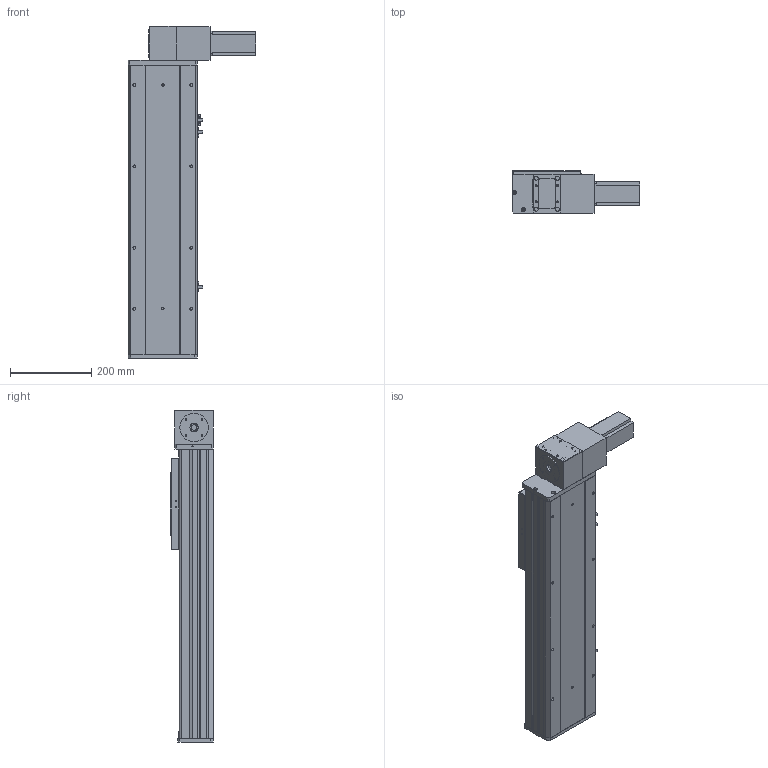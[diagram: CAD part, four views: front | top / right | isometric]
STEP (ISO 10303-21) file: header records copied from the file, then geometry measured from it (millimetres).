
FILE_DESCRIPTION (( 'STEP AP203' ), '1' );
FILE_NAME ('Y170CB-D105-S400-BD-P400W.STEP', '2020-02-20T08:14:38', ( '微软用户' ), ( '微软中国' ), 'SwSTEP 2.0', 'SolidWorks 2017', '' );
FILE_SCHEMA (( 'CONFIG_CONTROL_DESIGN' ));
Length unit declared in the file: millimetre
Products named in the file (16): 0B薊粣ん眊-400W--; 70CB--耜裔; Y170CB-D105-S400-BD-P400W; 70C-雄赽釱-奻-; 0C--雄赽釱俋欶-170; B-源倛裔啣; 70CB-詩湍--; san松下电机400不带刹车----; Y100-135俋离換覜ん--; 70CB-掛极-; Y170CB-陔俋离換覜結え---; --70CB --喘謫眊楊擘啣-; Y1埴倛裔; 70CB-耜裔啣-; 70B喘謫眊----; 70C--詩湍揤踡え-
Assembly tree (19 placements, depth 2):
  Y170CB-D105-S400-BD-P400W
    B-源倛裔啣
    san松下电机400不带刹车----
    70CB-掛极-
    --70CB --喘謫眊楊擘啣-
    70CB-耜裔啣-  x2
    70C--詩湍揤踡え-  x2
    70CB--耜裔
    70C-雄赽釱-奻-
    0C--雄赽釱俋欶-170
    70CB-詩湍--
    Y100-135俋离換覜ん--  x3
    Y170CB-陔俋离換覜結え---
    Y1埴倛裔
    70B喘謫眊----
    0B薊粣ん眊-400W--
Bounding box: 313.5 x 107 x 816 mm (x, y, z)
Volume: 4464481.4 mm3; surface area: 1455669.5 mm2
Topology: 19 solids, 19 shells, 896 faces, 2354 edges, 1560 vertices
Faces by surface type: cylinder 450, plane 422, cone 24
Entity records: 27843 total; most frequent: CARTESIAN_POINT 5146, DIRECTION 4527, ORIENTED_EDGE 4190, EDGE_CURVE 2095, AXIS2_PLACEMENT_3D 1661, VERTEX_POINT 1390, LINE 1205, VECTOR 1205
